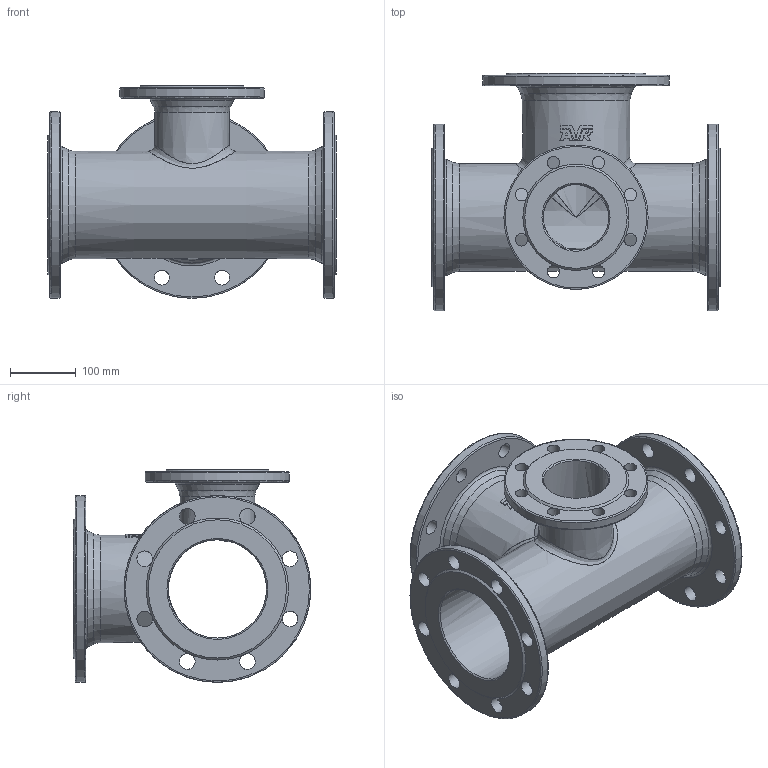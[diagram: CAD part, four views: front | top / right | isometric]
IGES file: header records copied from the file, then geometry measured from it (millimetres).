
Start section: SolidWorks IGES file using analytic representation for surfaces
Global section: file name: \\avksan2\techshare\PBM outline export from Enovia\O_712_1110_DN150_AA0.igs; native system: SolidWorks 2012; preprocessor: SolidWorks 2012; author: pbm; date: 171013.090634; units: millimetre
Bounding box: 440 x 362.5 x 324.5 mm (x, y, z)
Surface area: 939308.4 mm2 (no closed solid volume)
Topology: 0 solids, 0 shells, 187 faces, 1772 edges, 1692 vertices
Faces by surface type: revolution 124, bspline 63
